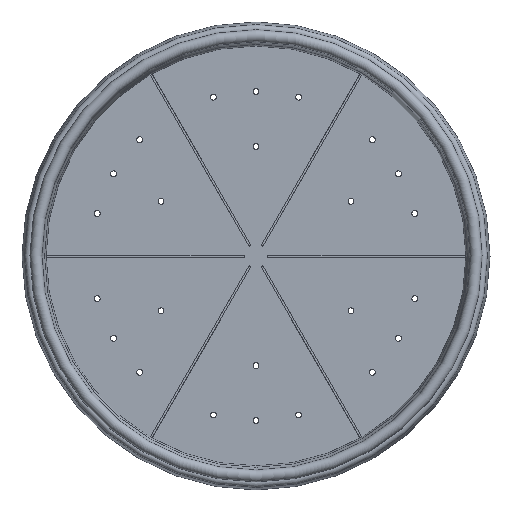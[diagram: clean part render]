
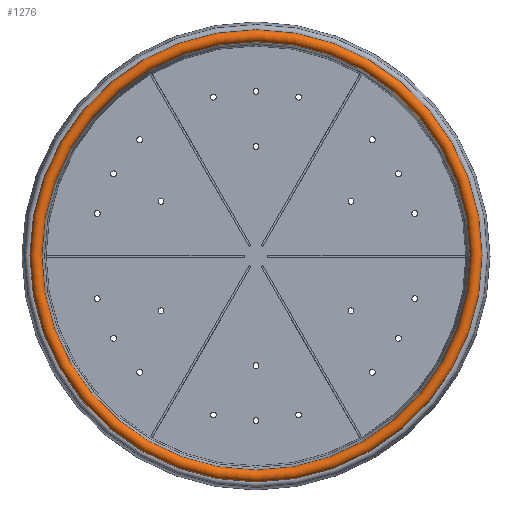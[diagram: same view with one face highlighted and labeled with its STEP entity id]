
A CAD part, top view. The second image highlights one B-rep face of the part: STEP entity #1276.
In plain terms, the highlighted toroidal (fillet/blend) face has major radius 185.68 mm and minor radius 5 mm.
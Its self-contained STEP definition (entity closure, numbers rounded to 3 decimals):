
#18=TOROIDAL_SURFACE('',#1441,185.68,5.);
#154=FACE_OUTER_BOUND('',#245,.T.);
#245=EDGE_LOOP('',(#1097,#1098,#1099,#1100));
#522=CIRCLE('',#1440,189.51);
#523=CIRCLE('',#1442,180.68);
#524=CIRCLE('',#1443,5.);
#643=VERTEX_POINT('',#2201);
#644=VERTEX_POINT('',#2205);
#810=EDGE_CURVE('',#643,#643,#522,.T.);
#812=EDGE_CURVE('',#644,#644,#523,.T.);
#813=EDGE_CURVE('',#644,#643,#524,.T.);
#1097=ORIENTED_EDGE('',*,*,#812,.F.);
#1098=ORIENTED_EDGE('',*,*,#813,.T.);
#1099=ORIENTED_EDGE('',*,*,#810,.T.);
#1100=ORIENTED_EDGE('',*,*,#813,.F.);
#1276=ADVANCED_FACE('',(#154),#18,.T.);
#1440=AXIS2_PLACEMENT_3D('',#2202,#1821,#1822);
#1441=AXIS2_PLACEMENT_3D('',#2204,#1824,#1825);
#1442=AXIS2_PLACEMENT_3D('',#2206,#1826,#1827);
#1443=AXIS2_PLACEMENT_3D('',#2207,#1828,#1829);
#1821=DIRECTION('center_axis',(0.,0.,1.));
#1822=DIRECTION('ref_axis',(1.,0.,0.));
#1824=DIRECTION('center_axis',(0.,0.,1.));
#1825=DIRECTION('ref_axis',(1.,0.,0.));
#1826=DIRECTION('center_axis',(0.,0.,1.));
#1827=DIRECTION('ref_axis',(1.,0.,0.));
#1828=DIRECTION('center_axis',(0.,-1.,0.));
#1829=DIRECTION('ref_axis',(-1.,0.,0.));
#2201=CARTESIAN_POINT('',(-189.51,0.,91.786));
#2202=CARTESIAN_POINT('Origin',(0.,0.,91.786));
#2204=CARTESIAN_POINT('Origin',(0.,0.,95.));
#2205=CARTESIAN_POINT('',(-180.68,0.,95.));
#2206=CARTESIAN_POINT('Origin',(0.,0.,95.));
#2207=CARTESIAN_POINT('Origin',(-185.68,0.,
95.));
